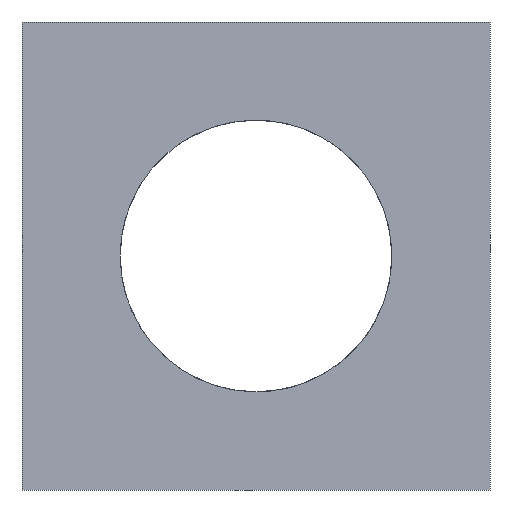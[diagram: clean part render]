
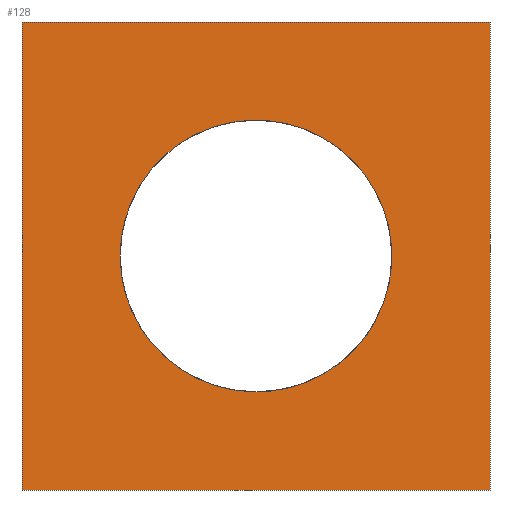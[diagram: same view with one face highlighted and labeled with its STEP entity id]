
A CAD part, front view. The second image highlights one B-rep face of the part: STEP entity #128.
In plain terms, the highlighted planar face has unit normal (0.087, -0.996, 0).
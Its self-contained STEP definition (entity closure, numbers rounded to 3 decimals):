
#18=FACE_BOUND('',#29,.T.);
#20=ELLIPSE('',#156,9.034,9.);
#21=FACE_OUTER_BOUND('',#28,.T.);
#28=EDGE_LOOP('',(#90,#91,#92,#93));
#29=EDGE_LOOP('',(#94));
#37=LINE('',#204,#50);
#38=LINE('',#206,#51);
#39=LINE('',#208,#52);
#40=LINE('',#209,#53);
#50=VECTOR('',#169,10.);
#51=VECTOR('',#170,10.);
#52=VECTOR('',#171,10.);
#53=VECTOR('',#172,10.);
#63=VERTEX_POINT('',#202);
#64=VERTEX_POINT('',#203);
#65=VERTEX_POINT('',#205);
#66=VERTEX_POINT('',#207);
#67=VERTEX_POINT('',#210);
#74=EDGE_CURVE('',#63,#64,#37,.T.);
#75=EDGE_CURVE('',#65,#63,#38,.T.);
#76=EDGE_CURVE('',#66,#65,#39,.T.);
#77=EDGE_CURVE('',#66,#64,#40,.T.);
#78=EDGE_CURVE('',#67,#67,#20,.T.);
#90=ORIENTED_EDGE('',*,*,#74,.F.);
#91=ORIENTED_EDGE('',*,*,#75,.F.);
#92=ORIENTED_EDGE('',*,*,#76,.F.);
#93=ORIENTED_EDGE('',*,*,#77,.T.);
#94=ORIENTED_EDGE('',*,*,#78,.F.);
#122=PLANE('',#155);
#128=ADVANCED_FACE('',(#21,#18),#122,.F.);
#155=AXIS2_PLACEMENT_3D('',#201,#167,#168);
#156=AXIS2_PLACEMENT_3D('',#211,#173,#174);
#167=DIRECTION('center_axis',(-0.087,0.996,0.));
#168=DIRECTION('ref_axis',(0.996,0.087,0.));
#169=DIRECTION('',(-0.996,-0.087,0.));
#170=DIRECTION('',(0.,0.,-1.));
#171=DIRECTION('',(0.996,0.087,0.));
#172=DIRECTION('',(0.,0.,-1.));
#173=DIRECTION('center_axis',(0.087,-0.996,0.));
#174=DIRECTION('ref_axis',(0.996,0.087,0.));
#201=CARTESIAN_POINT('Origin',(-15.5,-6.,15.5));
#202=CARTESIAN_POINT('',(15.5,-3.298,-15.5));
#203=CARTESIAN_POINT('',(-15.5,-6.,-15.5));
#204=CARTESIAN_POINT('',(-15.241,-5.977,-15.5));
#205=CARTESIAN_POINT('',(15.5,-3.298,15.5));
#206=CARTESIAN_POINT('',(15.5,-3.298,0.));
#207=CARTESIAN_POINT('',(-15.5,-6.,15.5));
#208=CARTESIAN_POINT('',(0.143,-4.637,15.5));
#209=CARTESIAN_POINT('',(-15.5,-6.,-15.5));
#210=CARTESIAN_POINT('',(-9.,-5.433,0.));
#211=CARTESIAN_POINT('Origin',(0.,-4.649,0.));
